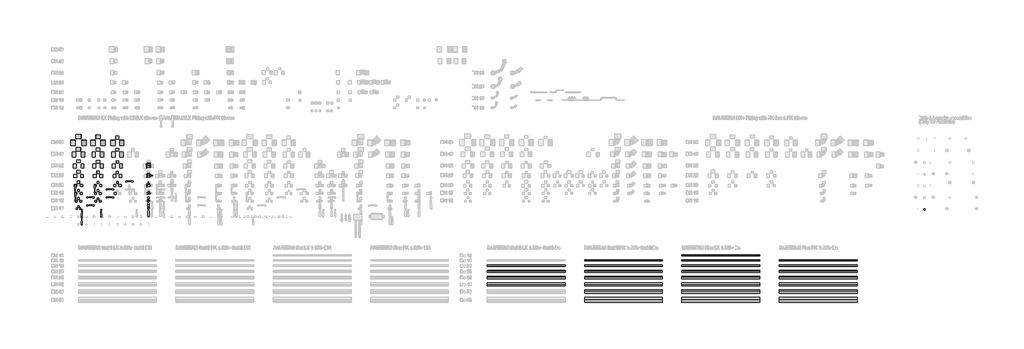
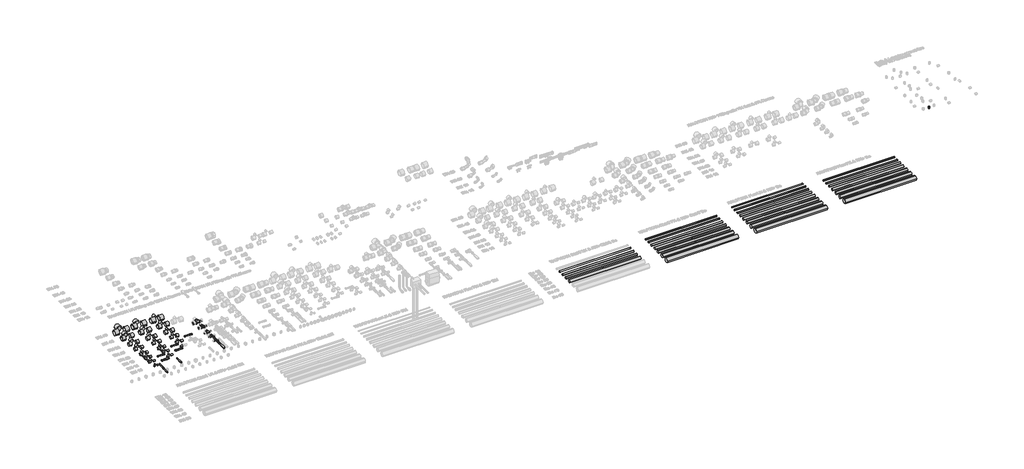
# One storey, part 2 of 18: 67 pipe fittings, 26 pipe segments.
"""IFC4 building model written with IfcOpenShell, lengths in millimetres."""

from ifc_helpers import new_model, si_unit, point, frame, frame_2d, origin, place, context, project, spatial, circle_curve, trimmed, segment, composite_curve, outline, extrude, transform, mapped, element, save
from components import pipe_fitting_9dffc905, pipe_fitting_918ed5ed, pipe_fitting_eedfb6d1, pipe_fitting_2e8cdfe4, dn1_c9c9eba3, pipe_fitting_bdd22d68, sleeve_lx_7_4_533efbed, pipe_fitting_6fe5a3bb, pipe_fitting_396ce9a4, pipe_fitting_37e15ff8, pipe_fitting_5c01712a, pipe_fitting_b25a488c, sleeve_lx_7_4_d3d6d1e0, pipe_fitting_1876d1a3

model = new_model("IFC4")

# Units and contexts
model_context = context("Model", 3, world=origin())
ifc_project = project(units=[si_unit("LENGTHUNIT", "METRE", prefix="MILLI")], contexts=[model_context])

# Site, building, storey
site = spatial("IfcSite", under=ifc_project)
building = spatial("IfcBuilding", under=site)
storey = spatial("IfcBuildingStorey", under=building, Name="REHAU Starting view", Elevation=0.0)

# Pipe fittings
placement = place(None, origin())
pipe_fitting_shape = pipe_fitting_9dffc905(model_context)
element("IfcPipeFitting", 1, ObjectType="RAUTITAN_T-piece_LX : RTI LX T DN", at=placement, inside=storey, context=model_context, shape_type="MappedRepresentation", body=[
    mapped(pipe_fitting_shape, transform((900.0, 100.0, 0.0), x_axis=(1.0, 0.0, 0.0), y_axis=(0.0, 1.0, 0.0), z_axis=(0.0, 0.0, 1.0))),
])
pipe_fitting_2_shape = pipe_fitting_918ed5ed(model_context)
element("IfcPipeFitting", 2, ObjectType="RAUTITAN_T-piece_LX : RTI LX T DN", at=placement, inside=storey, context=model_context, shape_type="MappedRepresentation", body=[
    mapped(pipe_fitting_2_shape, transform((900.0, 300.0, 0.0), x_axis=(1.0, 0.0, 0.0), y_axis=(0.0, 1.0, 0.0), z_axis=(0.0, 0.0, 1.0))),
])
pipe_fitting_3_shape = pipe_fitting_eedfb6d1(model_context)
element("IfcPipeFitting", 3, ObjectType="RAUTITAN_T-piece_LX : RTI LX T DN", at=placement, inside=storey, context=model_context, shape_type="MappedRepresentation", body=[
    mapped(pipe_fitting_3_shape, transform((900.0, 425.0, 0.0), x_axis=(1.0, 0.0, 0.0), y_axis=(0.0, 1.0, 0.0), z_axis=(0.0, 0.0, 1.0))),
])
pipe_fitting_4_shape = pipe_fitting_2e8cdfe4(model_context)
element("IfcPipeFitting", 4, ObjectType="RAUTITAN_T-piece_LX : RTI LX T DN", at=placement, inside=storey, context=model_context, shape_type="MappedRepresentation", body=[
    mapped(pipe_fitting_4_shape, transform((900.0, 200.0, 0.0), x_axis=(1.0, 0.0, 0.0), y_axis=(0.0, 1.0, 0.0), z_axis=(0.0, 0.0, 1.0))),
])
dn1_shape = dn1_c9c9eba3(model_context)
element("IfcPipeFitting", 5, ObjectType="RAUTITAN_Sleeve PX : RTI S PX", at=placement, inside=storey, context=model_context, shape_type="MappedRepresentation", body=[
    mapped(dn1_shape, transform((10865.0, -8.0, 26.3), x_axis=(0.0, 0.0, 1.0), y_axis=(-1.0, 0.0, 0.0), z_axis=(0.0, -1.0, 0.0))),
])
pipe_fitting_5_shape = pipe_fitting_bdd22d68(model_context)
element("IfcPipeFitting", 6, ObjectType="RAUTITAN_T-piece_LX : RTI LX T DN", at=placement, inside=storey, context=model_context, shape_type="MappedRepresentation", body=[
    mapped(pipe_fitting_5_shape, transform((900.0, 550.0, 0.0), x_axis=(1.0, 0.0, 0.0), y_axis=(0.0, 1.0, 0.0), z_axis=(0.0, 0.0, 1.0))),
])
sleeve_lx_7_4_shape = sleeve_lx_7_4_533efbed(model_context)
element("IfcPipeFitting", 7, ObjectType="Sleeve : LX 7,4", at=placement, inside=storey, context=model_context, shape_type="MappedRepresentation", body=[
    mapped(sleeve_lx_7_4_shape, transform((-15.5, 0.0, 0.0), x_axis=(-1.0, 0.0, 0.0), y_axis=(0.0, -1.0, 0.0), z_axis=(0.0, 0.0, 1.0))),
])
element("IfcPipeFitting", 8, ObjectType="Sleeve : LX 7,4", at=placement, inside=storey, context=model_context, shape_type="MappedRepresentation", body=[
    mapped(sleeve_lx_7_4_shape, transform((0.0, 20.0, 0.0), x_axis=(0.0, 1.0, 0.0), y_axis=(-1.0, 0.0, 0.0), z_axis=(0.0, 0.0, 1.0))),
])
element("IfcPipeFitting", 9, ObjectType="Sleeve : LX 7,4", at=placement, inside=storey, context=model_context, shape_type="MappedRepresentation", body=[
    mapped(sleeve_lx_7_4_shape, transform((15.5, 0.0, 0.0), x_axis=(1.0, 0.0, 0.0), y_axis=(0.0, 1.0, 0.0), z_axis=(0.0, 0.0, 1.0))),
])
element("IfcPipeFitting", 10, ObjectType="Sleeve : LX 7,4", at=placement, inside=storey, context=model_context, shape_type="MappedRepresentation", body=[
    mapped(sleeve_lx_7_4_shape, transform((250.0, 122.0, 0.0), x_axis=(0.0, 1.0, 0.0), y_axis=(-1.0, 0.0, 0.0), z_axis=(0.0, 0.0, 1.0))),
])
pipe_fitting_6_shape = pipe_fitting_6fe5a3bb(model_context)
element("IfcPipeFitting", 11, ObjectType="Sleeve : LX 7,4", at=placement, inside=storey, context=model_context, shape_type="MappedRepresentation", body=[
    mapped(pipe_fitting_6_shape, transform((-21.1, 200.0, 0.0), x_axis=(-1.0, 0.0, 0.0), y_axis=(0.0, -1.0, 0.0), z_axis=(0.0, 0.0, 1.0))),
])
element("IfcPipeFitting", 12, ObjectType="Sleeve : LX 7,4", at=placement, inside=storey, context=model_context, shape_type="MappedRepresentation", body=[
    mapped(pipe_fitting_6_shape, transform((0.0, 224.2, 0.0), x_axis=(0.0, 1.0, 0.0), y_axis=(-1.0, 0.0, 0.0), z_axis=(0.0, 0.0, 1.0))),
])
element("IfcPipeFitting", 13, ObjectType="Sleeve : LX 7,4", at=placement, inside=storey, context=model_context, shape_type="MappedRepresentation", body=[
    mapped(pipe_fitting_6_shape, transform((21.1, 200.0, 0.0), x_axis=(1.0, 0.0, 0.0), y_axis=(0.0, 1.0, 0.0), z_axis=(0.0, 0.0, 1.0))),
])
element("IfcPipeFitting", 14, ObjectType="Sleeve : LX 7,4", at=placement, inside=storey, context=model_context, shape_type="MappedRepresentation", body=[
    mapped(pipe_fitting_6_shape, transform((250.0, 327.2, 0.0), x_axis=(0.0, 1.0, 0.0), y_axis=(-1.0, 0.0, 0.0), z_axis=(0.0, 0.0, 1.0))),
])
element("IfcPipeFitting", 15, ObjectType="Sleeve : LX 7,4", at=placement, inside=storey, context=model_context, shape_type="MappedRepresentation", body=[
    mapped(pipe_fitting_6_shape, transform((230.9, 200.0, 0.0), x_axis=(-1.0, 0.0, 0.0), y_axis=(0.0, -1.0, 0.0), z_axis=(0.0, 0.0, 1.0))),
])
element("IfcPipeFitting", 16, ObjectType="Sleeve : LX 7,4", at=placement, inside=storey, context=model_context, shape_type="MappedRepresentation", body=[
    mapped(pipe_fitting_6_shape, transform((269.1, 200.0, 0.0), x_axis=(1.0, 0.0, 0.0), y_axis=(0.0, 1.0, 0.0), z_axis=(0.0, 0.0, 1.0))),
])
element("IfcPipeFitting", 17, ObjectType="Sleeve : LX 7,4", at=placement, inside=storey, context=model_context, shape_type="MappedRepresentation", body=[
    mapped(pipe_fitting_6_shape, transform((500.0, 455.2, 0.0), x_axis=(0.0, 1.0, 0.0), y_axis=(-1.0, 0.0, 0.0), z_axis=(0.0, 0.0, 1.0))),
])
element("IfcPipeFitting", 18, ObjectType="Sleeve : LX 7,4", at=placement, inside=storey, context=model_context, shape_type="MappedRepresentation", body=[
    mapped(pipe_fitting_6_shape, transform((483.9, 200.0, 0.0), x_axis=(-1.0, 0.0, 0.0), y_axis=(0.0, -1.0, 0.0), z_axis=(0.0, 0.0, 1.0))),
])
pipe_fitting_7_shape = pipe_fitting_396ce9a4(model_context)
element("IfcPipeFitting", 19, ObjectType="Sleeve : LX 7,4", at=placement, inside=storey, context=model_context, shape_type="MappedRepresentation", body=[
    mapped(pipe_fitting_7_shape, transform((-25.0, 300.0, 0.0), x_axis=(-1.0, 0.0, 0.0), y_axis=(0.0, -1.0, 0.0), z_axis=(0.0, 0.0, 1.0))),
])
element("IfcPipeFitting", 20, ObjectType="Sleeve : LX 7,4", at=placement, inside=storey, context=model_context, shape_type="MappedRepresentation", body=[
    mapped(pipe_fitting_7_shape, transform((0.0, 327.6, 0.0), x_axis=(0.0, 1.0, 0.0), y_axis=(-1.0, 0.0, 0.0), z_axis=(0.0, 0.0, 1.0))),
])
element("IfcPipeFitting", 21, ObjectType="Sleeve : LX 7,4", at=placement, inside=storey, context=model_context, shape_type="MappedRepresentation", body=[
    mapped(pipe_fitting_7_shape, transform((25.0, 300.0, 0.0), x_axis=(1.0, 0.0, 0.0), y_axis=(0.0, 1.0, 0.0), z_axis=(0.0, 0.0, 1.0))),
])
element("IfcPipeFitting", 22, ObjectType="Sleeve : LX 7,4", at=placement, inside=storey, context=model_context, shape_type="MappedRepresentation", body=[
    mapped(pipe_fitting_7_shape, transform((228.5, 300.0, 0.0), x_axis=(-1.0, 0.0, 0.0), y_axis=(0.0, -1.0, 0.0), z_axis=(0.0, 0.0, 1.0))),
])
element("IfcPipeFitting", 23, ObjectType="Sleeve : LX 7,4", at=placement, inside=storey, context=model_context, shape_type="MappedRepresentation", body=[
    mapped(pipe_fitting_7_shape, transform((271.5, 300.0, 0.0), x_axis=(1.0, 0.0, 0.0), y_axis=(0.0, 1.0, 0.0), z_axis=(0.0, 0.0, 1.0))),
])
element("IfcPipeFitting", 24, ObjectType="Sleeve : LX 7,4", at=placement, inside=storey, context=model_context, shape_type="MappedRepresentation", body=[
    mapped(pipe_fitting_7_shape, transform((250.0, 455.6, 0.0), x_axis=(0.0, 1.0, 0.0), y_axis=(-1.0, 0.0, 0.0), z_axis=(0.0, 0.0, 1.0))),
])
element("IfcPipeFitting", 25, ObjectType="Sleeve : LX 7,4", at=placement, inside=storey, context=model_context, shape_type="MappedRepresentation", body=[
    mapped(pipe_fitting_7_shape, transform((480.5, 300.0, 0.0), x_axis=(-1.0, 0.0, 0.0), y_axis=(0.0, -1.0, 0.0), z_axis=(0.0, 0.0, 1.0))),
])
element("IfcPipeFitting", 26, ObjectType="Sleeve : LX 7,4", at=placement, inside=storey, context=model_context, shape_type="MappedRepresentation", body=[
    mapped(pipe_fitting_7_shape, transform((519.5, 300.0, 0.0), x_axis=(1.0, 0.0, 0.0), y_axis=(0.0, 1.0, 0.0), z_axis=(0.0, 0.0, 1.0))),
])
element("IfcPipeFitting", 27, ObjectType="Sleeve : LX 7,4", at=placement, inside=storey, context=model_context, shape_type="MappedRepresentation", body=[
    mapped(pipe_fitting_7_shape, transform((500.0, 586.2, 0.0), x_axis=(0.0, 1.0, 0.0), y_axis=(-1.0, 0.0, 0.0), z_axis=(0.0, 0.0, 1.0))),
])
pipe_fitting_8_shape = pipe_fitting_37e15ff8(model_context)
element("IfcPipeFitting", 28, ObjectType="Sleeve : LX 7,4", at=placement, inside=storey, context=model_context, shape_type="MappedRepresentation", body=[
    mapped(pipe_fitting_8_shape, transform((-32.3, 550.0, 0.0), x_axis=(-1.0, 0.0, 0.0), y_axis=(0.0, -1.0, 0.0), z_axis=(0.0, 0.0, 1.0))),
])
element("IfcPipeFitting", 29, ObjectType="Sleeve : LX 7,4", at=placement, inside=storey, context=model_context, shape_type="MappedRepresentation", body=[
    mapped(pipe_fitting_8_shape, transform((0.0, 593.0, 0.0), x_axis=(0.0, 1.0, 0.0), y_axis=(-1.0, 0.0, 0.0), z_axis=(0.0, 0.0, 1.0))),
])
element("IfcPipeFitting", 30, ObjectType="Sleeve : LX 7,4", at=placement, inside=storey, context=model_context, shape_type="MappedRepresentation", body=[
    mapped(pipe_fitting_8_shape, transform((32.3, 550.0, 0.0), x_axis=(1.0, 0.0, 0.0), y_axis=(0.0, 1.0, 0.0), z_axis=(0.0, 0.0, 1.0))),
])
element("IfcPipeFitting", 31, ObjectType="Sleeve : LX 7,4", at=placement, inside=storey, context=model_context, shape_type="MappedRepresentation", body=[
    mapped(pipe_fitting_8_shape, transform((220.5, 550.0, 0.0), x_axis=(-1.0, 0.0, 0.0), y_axis=(0.0, -1.0, 0.0), z_axis=(0.0, 0.0, 1.0))),
])
element("IfcPipeFitting", 32, ObjectType="Sleeve : LX 7,4", at=placement, inside=storey, context=model_context, shape_type="MappedRepresentation", body=[
    mapped(pipe_fitting_8_shape, transform((279.5, 550.0, 0.0), x_axis=(1.0, 0.0, 0.0), y_axis=(0.0, 1.0, 0.0), z_axis=(0.0, 0.0, 1.0))),
])
element("IfcPipeFitting", 33, ObjectType="Sleeve : LX 7,4", at=placement, inside=storey, context=model_context, shape_type="MappedRepresentation", body=[
    mapped(pipe_fitting_8_shape, transform((250.0, 746.0, 0.0), x_axis=(0.0, 1.0, 0.0), y_axis=(-1.0, 0.0, 0.0), z_axis=(0.0, 0.0, 1.0))),
])
element("IfcPipeFitting", 34, ObjectType="Sleeve : LX 7,4", at=placement, inside=storey, context=model_context, shape_type="MappedRepresentation", body=[
    mapped(pipe_fitting_8_shape, transform((473.0, 550.0, 0.0), x_axis=(-1.0, 0.0, 0.0), y_axis=(0.0, -1.0, 0.0), z_axis=(0.0, 0.0, 1.0))),
])
element("IfcPipeFitting", 35, ObjectType="Sleeve : LX 7,4", at=placement, inside=storey, context=model_context, shape_type="MappedRepresentation", body=[
    mapped(pipe_fitting_8_shape, transform((527.0, 550.0, 0.0), x_axis=(1.0, 0.0, 0.0), y_axis=(0.0, 1.0, 0.0), z_axis=(0.0, 0.0, 1.0))),
])
pipe_fitting_9_shape = pipe_fitting_5c01712a(model_context)
element("IfcPipeFitting", 36, ObjectType="Sleeve : LX 7,4", at=placement, inside=storey, context=model_context, shape_type="MappedRepresentation", body=[
    mapped(pipe_fitting_9_shape, transform((-36.0, 700.0, 0.0), x_axis=(-1.0, 0.0, 0.0), y_axis=(0.0, -1.0, 0.0), z_axis=(0.0, 0.0, 1.0))),
])
element("IfcPipeFitting", 37, ObjectType="Sleeve : LX 7,4", at=placement, inside=storey, context=model_context, shape_type="MappedRepresentation", body=[
    mapped(pipe_fitting_9_shape, transform((0.0, 746.0, 0.0), x_axis=(0.0, 1.0, 0.0), y_axis=(-1.0, 0.0, 0.0), z_axis=(0.0, 0.0, 1.0))),
])
element("IfcPipeFitting", 38, ObjectType="Sleeve : LX 7,4", at=placement, inside=storey, context=model_context, shape_type="MappedRepresentation", body=[
    mapped(pipe_fitting_9_shape, transform((36.0, 700.0, 0.0), x_axis=(1.0, 0.0, 0.0), y_axis=(0.0, 1.0, 0.0), z_axis=(0.0, 0.0, 1.0))),
])
element("IfcPipeFitting", 39, ObjectType="Sleeve : LX 7,4", at=placement, inside=storey, context=model_context, shape_type="MappedRepresentation", body=[
    mapped(pipe_fitting_9_shape, transform((218.0, 700.0, 0.0), x_axis=(-1.0, 0.0, 0.0), y_axis=(0.0, -1.0, 0.0), z_axis=(0.0, 0.0, 1.0))),
])
element("IfcPipeFitting", 40, ObjectType="Sleeve : LX 7,4", at=placement, inside=storey, context=model_context, shape_type="MappedRepresentation", body=[
    mapped(pipe_fitting_9_shape, transform((282.0, 700.0, 0.0), x_axis=(1.0, 0.0, 0.0), y_axis=(0.0, 1.0, 0.0), z_axis=(0.0, 0.0, 1.0))),
])
element("IfcPipeFitting", 41, ObjectType="Sleeve : LX 7,4", at=placement, inside=storey, context=model_context, shape_type="MappedRepresentation", body=[
    mapped(pipe_fitting_9_shape, transform((250.0, 903.0, 0.0), x_axis=(0.0, 1.0, 0.0), y_axis=(-1.0, 0.0, 0.0), z_axis=(0.0, 0.0, 1.0))),
])
element("IfcPipeFitting", 42, ObjectType="Sleeve : LX 7,4", at=placement, inside=storey, context=model_context, shape_type="MappedRepresentation", body=[
    mapped(pipe_fitting_9_shape, transform((470.5, 700.0, 0.0), x_axis=(-1.0, 0.0, 0.0), y_axis=(0.0, -1.0, 0.0), z_axis=(0.0, 0.0, 1.0))),
])
element("IfcPipeFitting", 43, ObjectType="Sleeve : LX 7,4", at=placement, inside=storey, context=model_context, shape_type="MappedRepresentation", body=[
    mapped(pipe_fitting_9_shape, transform((529.5, 700.0, 0.0), x_axis=(1.0, 0.0, 0.0), y_axis=(0.0, 1.0, 0.0), z_axis=(0.0, 0.0, 1.0))),
])
pipe_fitting_10_shape = pipe_fitting_b25a488c(model_context)
element("IfcPipeFitting", 44, ObjectType="Sleeve : LX 7,4", at=placement, inside=storey, context=model_context, shape_type="MappedRepresentation", body=[
    mapped(pipe_fitting_10_shape, transform((-44.0, 850.0, 0.0), x_axis=(-1.0, 0.0, 0.0), y_axis=(0.0, -1.0, 0.0), z_axis=(0.0, 0.0, 1.0))),
])
element("IfcPipeFitting", 45, ObjectType="Sleeve : LX 7,4", at=placement, inside=storey, context=model_context, shape_type="MappedRepresentation", body=[
    mapped(pipe_fitting_10_shape, transform((0.0, 904.5, 0.0), x_axis=(0.0, 1.0, 0.0), y_axis=(-1.0, 0.0, 0.0), z_axis=(0.0, 0.0, 1.0))),
])
element("IfcPipeFitting", 46, ObjectType="Sleeve : LX 7,4", at=placement, inside=storey, context=model_context, shape_type="MappedRepresentation", body=[
    mapped(pipe_fitting_10_shape, transform((44.0, 850.0, 0.0), x_axis=(1.0, 0.0, 0.0), y_axis=(0.0, 1.0, 0.0), z_axis=(0.0, 0.0, 1.0))),
])
element("IfcPipeFitting", 47, ObjectType="Sleeve : LX 7,4", at=placement, inside=storey, context=model_context, shape_type="MappedRepresentation", body=[
    mapped(pipe_fitting_10_shape, transform((211.7, 850.0, 0.0), x_axis=(-1.0, 0.0, 0.0), y_axis=(0.0, -1.0, 0.0), z_axis=(0.0, 0.0, 1.0))),
])
element("IfcPipeFitting", 48, ObjectType="Sleeve : LX 7,4", at=placement, inside=storey, context=model_context, shape_type="MappedRepresentation", body=[
    mapped(pipe_fitting_10_shape, transform((288.3, 850.0, 0.0), x_axis=(1.0, 0.0, 0.0), y_axis=(0.0, 1.0, 0.0), z_axis=(0.0, 0.0, 1.0))),
])
element("IfcPipeFitting", 49, ObjectType="Sleeve : LX 7,4", at=placement, inside=storey, context=model_context, shape_type="MappedRepresentation", body=[
    mapped(pipe_fitting_10_shape, transform((469.0, 850.0, 0.0), x_axis=(-1.0, 0.0, 0.0), y_axis=(0.0, -1.0, 0.0), z_axis=(0.0, 0.0, 1.0))),
])
element("IfcPipeFitting", 50, ObjectType="Sleeve : LX 7,4", at=placement, inside=storey, context=model_context, shape_type="MappedRepresentation", body=[
    mapped(pipe_fitting_10_shape, transform((531.0, 850.0, 0.0), x_axis=(1.0, 0.0, 0.0), y_axis=(0.0, 1.0, 0.0), z_axis=(0.0, 0.0, 1.0))),
])
sleeve_lx_7_4_2_shape = sleeve_lx_7_4_d3d6d1e0(model_context)
element("IfcPipeFitting", 51, ObjectType="Sleeve : LX 7,4", at=placement, inside=storey, context=model_context, shape_type="MappedRepresentation", body=[
    mapped(sleeve_lx_7_4_2_shape, transform((-18.6, 100.0, 0.0), x_axis=(-1.0, 0.0, 0.0), y_axis=(0.0, -1.0, 0.0), z_axis=(0.0, 0.0, 1.0))),
])
element("IfcPipeFitting", 52, ObjectType="Sleeve : LX 7,4", at=placement, inside=storey, context=model_context, shape_type="MappedRepresentation", body=[
    mapped(sleeve_lx_7_4_2_shape, transform((0.0, 122.3, 0.0), x_axis=(0.0, 1.0, 0.0), y_axis=(-1.0, 0.0, 0.0), z_axis=(0.0, 0.0, 1.0))),
])
element("IfcPipeFitting", 53, ObjectType="Sleeve : LX 7,4", at=placement, inside=storey, context=model_context, shape_type="MappedRepresentation", body=[
    mapped(sleeve_lx_7_4_2_shape, transform((18.6, 100.0, 0.0), x_axis=(1.0, 0.0, 0.0), y_axis=(0.0, 1.0, 0.0), z_axis=(0.0, 0.0, 1.0))),
])
element("IfcPipeFitting", 54, ObjectType="Sleeve : LX 7,4", at=placement, inside=storey, context=model_context, shape_type="MappedRepresentation", body=[
    mapped(sleeve_lx_7_4_2_shape, transform((234.4, 100.0, 0.0), x_axis=(-1.0, 0.0, 0.0), y_axis=(0.0, -1.0, 0.0), z_axis=(0.0, 0.0, 1.0))),
])
element("IfcPipeFitting", 55, ObjectType="Sleeve : LX 7,4", at=placement, inside=storey, context=model_context, shape_type="MappedRepresentation", body=[
    mapped(sleeve_lx_7_4_2_shape, transform((265.6, 100.0, 0.0), x_axis=(1.0, 0.0, 0.0), y_axis=(0.0, 1.0, 0.0), z_axis=(0.0, 0.0, 1.0))),
])
element("IfcPipeFitting", 56, ObjectType="Sleeve : LX 7,4", at=placement, inside=storey, context=model_context, shape_type="MappedRepresentation", body=[
    mapped(sleeve_lx_7_4_2_shape, transform((250.0, 223.7, 0.0), x_axis=(0.0, 1.0, 0.0), y_axis=(-1.0, 0.0, 0.0), z_axis=(0.0, 0.0, 1.0))),
])
element("IfcPipeFitting", 57, ObjectType="Sleeve : LX 7,4", at=placement, inside=storey, context=model_context, shape_type="MappedRepresentation", body=[
    mapped(sleeve_lx_7_4_2_shape, transform((500.0, 326.7, 0.0), x_axis=(0.0, 1.0, 0.0), y_axis=(-1.0, 0.0, 0.0), z_axis=(0.0, 0.0, 1.0))),
])
pipe_fitting_11_shape = pipe_fitting_1876d1a3(model_context)
element("IfcPipeFitting", 58, ObjectType="Sleeve : LX 7,4", at=placement, inside=storey, context=model_context, shape_type="MappedRepresentation", body=[
    mapped(pipe_fitting_11_shape, transform((-25.8, 425.0, 0.0), x_axis=(-1.0, 0.0, 0.0), y_axis=(0.0, -1.0, 0.0), z_axis=(0.0, 0.0, 1.0))),
])
element("IfcPipeFitting", 59, ObjectType="Sleeve : LX 7,4", at=placement, inside=storey, context=model_context, shape_type="MappedRepresentation", body=[
    mapped(pipe_fitting_11_shape, transform((0.0, 458.0, 0.0), x_axis=(0.0, 1.0, 0.0), y_axis=(-1.0, 0.0, 0.0), z_axis=(0.0, 0.0, 1.0))),
])
element("IfcPipeFitting", 60, ObjectType="Sleeve : LX 7,4", at=placement, inside=storey, context=model_context, shape_type="MappedRepresentation", body=[
    mapped(pipe_fitting_11_shape, transform((25.8, 425.0, 0.0), x_axis=(1.0, 0.0, 0.0), y_axis=(0.0, 1.0, 0.0), z_axis=(0.0, 0.0, 1.0))),
])
element("IfcPipeFitting", 61, ObjectType="Sleeve : LX 7,4", at=placement, inside=storey, context=model_context, shape_type="MappedRepresentation", body=[
    mapped(pipe_fitting_11_shape, transform((226.0, 425.0, 0.0), x_axis=(-1.0, 0.0, 0.0), y_axis=(0.0, -1.0, 0.0), z_axis=(0.0, 0.0, 1.0))),
])
element("IfcPipeFitting", 62, ObjectType="Sleeve : LX 7,4", at=placement, inside=storey, context=model_context, shape_type="MappedRepresentation", body=[
    mapped(pipe_fitting_11_shape, transform((274.0, 425.0, 0.0), x_axis=(1.0, 0.0, 0.0), y_axis=(0.0, 1.0, 0.0), z_axis=(0.0, 0.0, 1.0))),
])
element("IfcPipeFitting", 63, ObjectType="Sleeve : LX 7,4", at=placement, inside=storey, context=model_context, shape_type="MappedRepresentation", body=[
    mapped(pipe_fitting_11_shape, transform((250.0, 588.5, 0.0), x_axis=(0.0, 1.0, 0.0), y_axis=(-1.0, 0.0, 0.0), z_axis=(0.0, 0.0, 1.0))),
])
element("IfcPipeFitting", 64, ObjectType="Sleeve : LX 7,4", at=placement, inside=storey, context=model_context, shape_type="MappedRepresentation", body=[
    mapped(pipe_fitting_11_shape, transform((478.5, 425.0, 0.0), x_axis=(-1.0, 0.0, 0.0), y_axis=(0.0, -1.0, 0.0), z_axis=(0.0, 0.0, 1.0))),
])
element("IfcPipeFitting", 65, ObjectType="Sleeve : LX 7,4", at=placement, inside=storey, context=model_context, shape_type="MappedRepresentation", body=[
    mapped(pipe_fitting_11_shape, transform((521.5, 425.0, 0.0), x_axis=(1.0, 0.0, 0.0), y_axis=(0.0, 1.0, 0.0), z_axis=(0.0, 0.0, 1.0))),
])
element("IfcPipeFitting", 66, ObjectType="Sleeve : LX 7,4", at=placement, inside=storey, context=model_context, shape_type="MappedRepresentation", body=[
    mapped(pipe_fitting_11_shape, transform((500.0, 742.0, 0.0), x_axis=(0.0, 1.0, 0.0), y_axis=(-1.0, 0.0, 0.0), z_axis=(0.0, 0.0, 1.0))),
])
element("IfcPipeFitting", 67, ObjectType="Sleeve : LX 7,4", at=placement, inside=storey, context=model_context, shape_type="MappedRepresentation", body=[
    mapped(pipe_fitting_11_shape, transform((500.0, 900.0, 0.0), x_axis=(0.0, 1.0, 0.0), y_axis=(-1.0, 0.0, 0.0), z_axis=(0.0, 0.0, 1.0))),
])

# Pipe segments
element("IfcPipeSegment", 68, ObjectType="RAUTITAN Flex LX & RX+ Do", at=placement, inside=storey, context=model_context, shape_type="SweptSolid", body=[
    extrude(outline(composite_curve([segment(trimmed(circle_curve(frame_2d((-600.0, 0.0)), 6.0), [point((-606.0, 0.0))], [point((-600.0, 6.0))], False, "CARTESIAN"), True, "CONTINUOUS"), segment(trimmed(circle_curve(frame_2d((-600.0, 0.0)), 6.0), [point((-600.0, 6.0))], [point((-594.0, 0.0))], False, "CARTESIAN"), True, "CONTINUOUS"), segment(trimmed(circle_curve(frame_2d((-600.0, 0.0)), 6.0), [point((-594.0, 0.0))], [point((-600.0, -6.0))], False, "CARTESIAN"), True, "CONTINUOUS"), segment(trimmed(circle_curve(frame_2d((-600.0, 0.0)), 6.0), [point((-600.0, -6.0))], [point((-606.0, 0.0))], False, "CARTESIAN"), True, "CONTINUOUS")], self_intersect=False)), frame((7750.0, 0.0, 0.0), z_axis=(1.0, 0.0, 0.0), x_axis=(0.0, 1.0, 0.0)), (0.0, 0.0, 1.0), 1000.0),
])
element("IfcPipeSegment", 69, ObjectType="RAUTITAN Stabil LX & RX+ Stabil Do", at=placement, inside=storey, context=model_context, shape_type="SweptSolid", body=[
    extrude(outline(composite_curve([segment(trimmed(circle_curve(frame_2d((-732.2, 0.0)), 10.0), [point((-742.2, 0.0))], [point((-732.2, 10.0))], False, "CARTESIAN"), True, "CONTINUOUS"), segment(trimmed(circle_curve(frame_2d((-732.2, 0.0)), 10.0), [point((-732.2, 10.0))], [point((-722.2, 0.0))], False, "CARTESIAN"), True, "CONTINUOUS"), segment(trimmed(circle_curve(frame_2d((-732.2, 0.0)), 10.0), [point((-722.2, 0.0))], [point((-732.2, -10.0))], False, "CARTESIAN"), True, "CONTINUOUS"), segment(trimmed(circle_curve(frame_2d((-732.2, 0.0)), 10.0), [point((-732.2, -10.0))], [point((-742.2, 0.0))], False, "CARTESIAN"), True, "CONTINUOUS")], self_intersect=False)), frame((5250.0, 0.0, 0.0), z_axis=(1.0, 0.0, 0.0), x_axis=(0.0, 1.0, 0.0)), (0.0, 0.0, 1.0), 1000.0),
])
element("IfcPipeSegment", 70, ObjectType="RAUTITAN Stabil LX & RX+ Stabil Do", at=placement, inside=storey, context=model_context, shape_type="SweptSolid", body=[
    extrude(outline(composite_curve([segment(trimmed(circle_curve(frame_2d((-804.7, 0.0)), 12.5), [point((-817.2, 0.0))], [point((-804.7, 12.5))], False, "CARTESIAN"), True, "CONTINUOUS"), segment(trimmed(circle_curve(frame_2d((-804.7, 0.0)), 12.5), [point((-804.7, 12.5))], [point((-792.2, 0.0))], False, "CARTESIAN"), True, "CONTINUOUS"), segment(trimmed(circle_curve(frame_2d((-804.7, 0.0)), 12.5), [point((-792.2, 0.0))], [point((-804.7, -12.5))], False, "CARTESIAN"), True, "CONTINUOUS"), segment(trimmed(circle_curve(frame_2d((-804.7, 0.0)), 12.5), [point((-804.7, -12.5))], [point((-817.2, 0.0))], False, "CARTESIAN"), True, "CONTINUOUS")], self_intersect=False)), frame((5250.0, 0.0, 0.0), z_axis=(1.0, 0.0, 0.0), x_axis=(0.0, 1.0, 0.0)), (0.0, 0.0, 1.0), 1000.0),
])
element("IfcPipeSegment", 71, ObjectType="RAUTITAN Stabil LX & RX+ Stabil Do", at=placement, inside=storey, context=model_context, shape_type="SweptSolid", body=[
    extrude(outline(composite_curve([segment(trimmed(circle_curve(frame_2d((-883.2, 0.0)), 16.0), [point((-899.2, 0.0))], [point((-883.2, 16.0))], False, "CARTESIAN"), True, "CONTINUOUS"), segment(trimmed(circle_curve(frame_2d((-883.2, 0.0)), 16.0), [point((-883.2, 16.0))], [point((-867.2, 0.0))], False, "CARTESIAN"), True, "CONTINUOUS"), segment(trimmed(circle_curve(frame_2d((-883.2, 0.0)), 16.0), [point((-867.2, 0.0))], [point((-883.2, -16.0))], False, "CARTESIAN"), True, "CONTINUOUS"), segment(trimmed(circle_curve(frame_2d((-883.2, 0.0)), 16.0), [point((-883.2, -16.0))], [point((-899.2, 0.0))], False, "CARTESIAN"), True, "CONTINUOUS")], self_intersect=False)), frame((5250.0, 0.0, 0.0), z_axis=(1.0, 0.0, 0.0), x_axis=(0.0, 1.0, 0.0)), (0.0, 0.0, 1.0), 1000.0),
])
element("IfcPipeSegment", 72, ObjectType="RAUTITAN Stabil LX & RX+ Stabil Do", at=placement, inside=storey, context=model_context, shape_type="SweptSolid", body=[
    extrude(outline(composite_curve([segment(trimmed(circle_curve(frame_2d((-969.2, 0.0)), 20.0), [point((-989.2, 0.0))], [point((-969.2, 20.0))], False, "CARTESIAN"), True, "CONTINUOUS"), segment(trimmed(circle_curve(frame_2d((-969.2, 0.0)), 20.0), [point((-969.2, 20.0))], [point((-949.2, 0.0))], False, "CARTESIAN"), True, "CONTINUOUS"), segment(trimmed(circle_curve(frame_2d((-969.2, 0.0)), 20.0), [point((-949.2, 0.0))], [point((-969.2, -20.0))], False, "CARTESIAN"), True, "CONTINUOUS"), segment(trimmed(circle_curve(frame_2d((-969.2, 0.0)), 20.0), [point((-969.2, -20.0))], [point((-989.2, 0.0))], False, "CARTESIAN"), True, "CONTINUOUS")], self_intersect=False)), frame((5250.0, 0.0, 0.0), z_axis=(1.0, 0.0, 0.0), x_axis=(0.0, 1.0, 0.0)), (0.0, 0.0, 1.0), 1000.0),
])
element("IfcPipeSegment", 73, ObjectType="RAUTITAN Flex LX & RX+ Do", at=placement, inside=storey, context=model_context, shape_type="SweptSolid", body=[
    extrude(outline(composite_curve([segment(trimmed(circle_curve(frame_2d((-664.1, 0.0)), 8.0), [point((-672.1, 0.0))], [point((-664.1, 8.0))], False, "CARTESIAN"), True, "CONTINUOUS"), segment(trimmed(circle_curve(frame_2d((-664.1, 0.0)), 8.0), [point((-664.1, 8.0))], [point((-656.1, 0.0))], False, "CARTESIAN"), True, "CONTINUOUS"), segment(trimmed(circle_curve(frame_2d((-664.1, 0.0)), 8.0), [point((-656.1, 0.0))], [point((-664.1, -8.0))], False, "CARTESIAN"), True, "CONTINUOUS"), segment(trimmed(circle_curve(frame_2d((-664.1, 0.0)), 8.0), [point((-664.1, -8.0))], [point((-672.1, 0.0))], False, "CARTESIAN"), True, "CONTINUOUS")], self_intersect=False)), frame((7750.0, 0.0, 0.0), z_axis=(1.0, 0.0, 0.0), x_axis=(0.0, 1.0, 0.0)), (0.0, 0.0, 1.0), 1000.0),
])
element("IfcPipeSegment", 74, ObjectType="RAUTITAN Flex LX & RX+ Do", at=placement, inside=storey, context=model_context, shape_type="SweptSolid", body=[
    extrude(outline(composite_curve([segment(trimmed(circle_curve(frame_2d((-732.2, 0.0)), 10.0), [point((-742.2, 0.0))], [point((-732.2, 10.0))], False, "CARTESIAN"), True, "CONTINUOUS"), segment(trimmed(circle_curve(frame_2d((-732.2, 0.0)), 10.0), [point((-732.2, 10.0))], [point((-722.2, 0.0))], False, "CARTESIAN"), True, "CONTINUOUS"), segment(trimmed(circle_curve(frame_2d((-732.2, 0.0)), 10.0), [point((-722.2, 0.0))], [point((-732.2, -10.0))], False, "CARTESIAN"), True, "CONTINUOUS"), segment(trimmed(circle_curve(frame_2d((-732.2, 0.0)), 10.0), [point((-732.2, -10.0))], [point((-742.2, 0.0))], False, "CARTESIAN"), True, "CONTINUOUS")], self_intersect=False)), frame((7750.0, 0.0, 0.0), z_axis=(1.0, 0.0, 0.0), x_axis=(0.0, 1.0, 0.0)), (0.0, 0.0, 1.0), 1000.0),
])
element("IfcPipeSegment", 75, ObjectType="RAUTITAN Flex LX & RX+ Do", at=placement, inside=storey, context=model_context, shape_type="SweptSolid", body=[
    extrude(outline(composite_curve([segment(trimmed(circle_curve(frame_2d((-804.7, 0.0)), 12.5), [point((-817.2, 0.0))], [point((-804.7, 12.5))], False, "CARTESIAN"), True, "CONTINUOUS"), segment(trimmed(circle_curve(frame_2d((-804.7, 0.0)), 12.5), [point((-804.7, 12.5))], [point((-792.2, 0.0))], False, "CARTESIAN"), True, "CONTINUOUS"), segment(trimmed(circle_curve(frame_2d((-804.7, 0.0)), 12.5), [point((-792.2, 0.0))], [point((-804.7, -12.5))], False, "CARTESIAN"), True, "CONTINUOUS"), segment(trimmed(circle_curve(frame_2d((-804.7, 0.0)), 12.5), [point((-804.7, -12.5))], [point((-817.2, 0.0))], False, "CARTESIAN"), True, "CONTINUOUS")], self_intersect=False)), frame((7750.0, 0.0, 0.0), z_axis=(1.0, 0.0, 0.0), x_axis=(0.0, 1.0, 0.0)), (0.0, 0.0, 1.0), 1000.0),
])
element("IfcPipeSegment", 76, ObjectType="RAUTITAN Flex LX & RX+ Do", at=placement, inside=storey, context=model_context, shape_type="SweptSolid", body=[
    extrude(outline(composite_curve([segment(trimmed(circle_curve(frame_2d((-883.2, 0.0)), 16.0), [point((-899.2, 0.0))], [point((-883.2, 16.0))], False, "CARTESIAN"), True, "CONTINUOUS"), segment(trimmed(circle_curve(frame_2d((-883.2, 0.0)), 16.0), [point((-883.2, 16.0))], [point((-867.2, 0.0))], False, "CARTESIAN"), True, "CONTINUOUS"), segment(trimmed(circle_curve(frame_2d((-883.2, 0.0)), 16.0), [point((-867.2, 0.0))], [point((-883.2, -16.0))], False, "CARTESIAN"), True, "CONTINUOUS"), segment(trimmed(circle_curve(frame_2d((-883.2, 0.0)), 16.0), [point((-883.2, -16.0))], [point((-899.2, 0.0))], False, "CARTESIAN"), True, "CONTINUOUS")], self_intersect=False)), frame((7750.0, 0.0, 0.0), z_axis=(1.0, 0.0, 0.0), x_axis=(0.0, 1.0, 0.0)), (0.0, 0.0, 1.0), 1000.0),
])
element("IfcPipeSegment", 77, ObjectType="RAUTITAN Flex LX & RX+ Do", at=placement, inside=storey, context=model_context, shape_type="SweptSolid", body=[
    extrude(outline(composite_curve([segment(trimmed(circle_curve(frame_2d((-969.2, 0.0)), 20.0), [point((-989.2, 0.0))], [point((-969.2, 20.0))], False, "CARTESIAN"), True, "CONTINUOUS"), segment(trimmed(circle_curve(frame_2d((-969.2, 0.0)), 20.0), [point((-969.2, 20.0))], [point((-949.2, 0.0))], False, "CARTESIAN"), True, "CONTINUOUS"), segment(trimmed(circle_curve(frame_2d((-969.2, 0.0)), 20.0), [point((-949.2, 0.0))], [point((-969.2, -20.0))], False, "CARTESIAN"), True, "CONTINUOUS"), segment(trimmed(circle_curve(frame_2d((-969.2, 0.0)), 20.0), [point((-969.2, -20.0))], [point((-989.2, 0.0))], False, "CARTESIAN"), True, "CONTINUOUS")], self_intersect=False)), frame((7750.0, 0.0, 0.0), z_axis=(1.0, 0.0, 0.0), x_axis=(0.0, 1.0, 0.0)), (0.0, 0.0, 1.0), 1000.0),
])
element("IfcPipeSegment", 78, ObjectType="RAUTITAN Flex LX & RX+ Do", at=placement, inside=storey, context=model_context, shape_type="SweptSolid", body=[
    extrude(outline(composite_curve([segment(trimmed(circle_curve(frame_2d((-1064.2, 0.0)), 25.0), [point((-1089.2, 0.0))], [point((-1064.2, 25.0))], False, "CARTESIAN"), True, "CONTINUOUS"), segment(trimmed(circle_curve(frame_2d((-1064.2, 0.0)), 25.0), [point((-1064.2, 25.0))], [point((-1039.2, 0.0))], False, "CARTESIAN"), True, "CONTINUOUS"), segment(trimmed(circle_curve(frame_2d((-1064.2, 0.0)), 25.0), [point((-1039.2, 0.0))], [point((-1064.2, -25.0))], False, "CARTESIAN"), True, "CONTINUOUS"), segment(trimmed(circle_curve(frame_2d((-1064.2, 0.0)), 25.0), [point((-1064.2, -25.0))], [point((-1089.2, 0.0))], False, "CARTESIAN"), True, "CONTINUOUS")], self_intersect=False)), frame((7750.0, 0.0, 0.0), z_axis=(1.0, 0.0, 0.0), x_axis=(0.0, 1.0, 0.0)), (0.0, 0.0, 1.0), 1000.0),
])
element("IfcPipeSegment", 79, ObjectType="RAUTITAN Stabil PX & RX+ Stabil Do", at=placement, inside=storey, context=model_context, shape_type="SweptSolid", body=[
    extrude(outline(composite_curve([segment(trimmed(circle_curve(frame_2d((-664.1, 0.0)), 8.1), [point((-672.2, 0.0))], [point((-664.1, 8.1))], False, "CARTESIAN"), True, "CONTINUOUS"), segment(trimmed(circle_curve(frame_2d((-664.1, 0.0)), 8.1), [point((-664.1, 8.1))], [point((-656.0, 0.0))], False, "CARTESIAN"), True, "CONTINUOUS"), segment(trimmed(circle_curve(frame_2d((-664.1, 0.0)), 8.1), [point((-656.0, 0.0))], [point((-664.1, -8.1))], False, "CARTESIAN"), True, "CONTINUOUS"), segment(trimmed(circle_curve(frame_2d((-664.1, 0.0)), 8.1), [point((-664.1, -8.1))], [point((-672.2, 0.0))], False, "CARTESIAN"), True, "CONTINUOUS")], self_intersect=False)), frame((6500.0, 0.0, 0.0), z_axis=(1.0, 0.0, 0.0), x_axis=(0.0, 1.0, 0.0)), (0.0, 0.0, 1.0), 1000.0),
])
element("IfcPipeSegment", 80, ObjectType="RAUTITAN Stabil PX & RX+ Stabil Do", at=placement, inside=storey, context=model_context, shape_type="SweptSolid", body=[
    extrude(outline(composite_curve([segment(trimmed(circle_curve(frame_2d((-732.2, 0.0)), 10.0), [point((-742.2, 0.0))], [point((-732.2, 10.0))], False, "CARTESIAN"), True, "CONTINUOUS"), segment(trimmed(circle_curve(frame_2d((-732.2, 0.0)), 10.0), [point((-732.2, 10.0))], [point((-722.2, 0.0))], False, "CARTESIAN"), True, "CONTINUOUS"), segment(trimmed(circle_curve(frame_2d((-732.2, 0.0)), 10.0), [point((-722.2, 0.0))], [point((-732.2, -10.0))], False, "CARTESIAN"), True, "CONTINUOUS"), segment(trimmed(circle_curve(frame_2d((-732.2, 0.0)), 10.0), [point((-732.2, -10.0))], [point((-742.2, 0.0))], False, "CARTESIAN"), True, "CONTINUOUS")], self_intersect=False)), frame((6500.0, 0.0, 0.0), z_axis=(1.0, 0.0, 0.0), x_axis=(0.0, 1.0, 0.0)), (0.0, 0.0, 1.0), 1000.0),
])
element("IfcPipeSegment", 81, ObjectType="RAUTITAN Stabil PX & RX+ Stabil Do", at=placement, inside=storey, context=model_context, shape_type="SweptSolid", body=[
    extrude(outline(composite_curve([segment(trimmed(circle_curve(frame_2d((-804.7, 0.0)), 12.5), [point((-817.2, 0.0))], [point((-804.7, 12.5))], False, "CARTESIAN"), True, "CONTINUOUS"), segment(trimmed(circle_curve(frame_2d((-804.7, 0.0)), 12.5), [point((-804.7, 12.5))], [point((-792.2, 0.0))], False, "CARTESIAN"), True, "CONTINUOUS"), segment(trimmed(circle_curve(frame_2d((-804.7, 0.0)), 12.5), [point((-792.2, 0.0))], [point((-804.7, -12.5))], False, "CARTESIAN"), True, "CONTINUOUS"), segment(trimmed(circle_curve(frame_2d((-804.7, 0.0)), 12.5), [point((-804.7, -12.5))], [point((-817.2, 0.0))], False, "CARTESIAN"), True, "CONTINUOUS")], self_intersect=False)), frame((6500.0, 0.0, 0.0), z_axis=(1.0, 0.0, 0.0), x_axis=(0.0, 1.0, 0.0)), (0.0, 0.0, 1.0), 1000.0),
])
element("IfcPipeSegment", 82, ObjectType="RAUTITAN Stabil PX & RX+ Stabil Do", at=placement, inside=storey, context=model_context, shape_type="SweptSolid", body=[
    extrude(outline(composite_curve([segment(trimmed(circle_curve(frame_2d((-883.2, 0.0)), 16.0), [point((-899.2, 0.0))], [point((-883.2, 16.0))], False, "CARTESIAN"), True, "CONTINUOUS"), segment(trimmed(circle_curve(frame_2d((-883.2, 0.0)), 16.0), [point((-883.2, 16.0))], [point((-867.2, 0.0))], False, "CARTESIAN"), True, "CONTINUOUS"), segment(trimmed(circle_curve(frame_2d((-883.2, 0.0)), 16.0), [point((-867.2, 0.0))], [point((-883.2, -16.0))], False, "CARTESIAN"), True, "CONTINUOUS"), segment(trimmed(circle_curve(frame_2d((-883.2, 0.0)), 16.0), [point((-883.2, -16.0))], [point((-899.2, 0.0))], False, "CARTESIAN"), True, "CONTINUOUS")], self_intersect=False)), frame((6500.0, 0.0, 0.0), z_axis=(1.0, 0.0, 0.0), x_axis=(0.0, 1.0, 0.0)), (0.0, 0.0, 1.0), 1000.0),
])
element("IfcPipeSegment", 83, ObjectType="RAUTITAN Stabil PX & RX+ Stabil Do", at=placement, inside=storey, context=model_context, shape_type="SweptSolid", body=[
    extrude(outline(composite_curve([segment(trimmed(circle_curve(frame_2d((-969.2, 0.0)), 20.0), [point((-989.2, 0.0))], [point((-969.2, 20.0))], False, "CARTESIAN"), True, "CONTINUOUS"), segment(trimmed(circle_curve(frame_2d((-969.2, 0.0)), 20.0), [point((-969.2, 20.0))], [point((-949.2, 0.0))], False, "CARTESIAN"), True, "CONTINUOUS"), segment(trimmed(circle_curve(frame_2d((-969.2, 0.0)), 20.0), [point((-949.2, 0.0))], [point((-969.2, -20.0))], False, "CARTESIAN"), True, "CONTINUOUS"), segment(trimmed(circle_curve(frame_2d((-969.2, 0.0)), 20.0), [point((-969.2, -20.0))], [point((-989.2, 0.0))], False, "CARTESIAN"), True, "CONTINUOUS")], self_intersect=False)), frame((6500.0, 0.0, 0.0), z_axis=(1.0, 0.0, 0.0), x_axis=(0.0, 1.0, 0.0)), (0.0, 0.0, 1.0), 1000.0),
])
element("IfcPipeSegment", 84, ObjectType="RAUTITAN Stabil PX & RX+ Stabil Do", at=placement, inside=storey, context=model_context, shape_type="SweptSolid", body=[
    extrude(outline(composite_curve([segment(trimmed(circle_curve(frame_2d((-1064.2, 0.0)), 25.0), [point((-1089.2, 0.0))], [point((-1064.2, 25.0))], False, "CARTESIAN"), True, "CONTINUOUS"), segment(trimmed(circle_curve(frame_2d((-1064.2, 0.0)), 25.0), [point((-1064.2, 25.0))], [point((-1039.2, 0.0))], False, "CARTESIAN"), True, "CONTINUOUS"), segment(trimmed(circle_curve(frame_2d((-1064.2, 0.0)), 25.0), [point((-1039.2, 0.0))], [point((-1064.2, -25.0))], False, "CARTESIAN"), True, "CONTINUOUS"), segment(trimmed(circle_curve(frame_2d((-1064.2, 0.0)), 25.0), [point((-1064.2, -25.0))], [point((-1089.2, 0.0))], False, "CARTESIAN"), True, "CONTINUOUS")], self_intersect=False)), frame((6500.0, 0.0, 0.0), z_axis=(1.0, 0.0, 0.0), x_axis=(0.0, 1.0, 0.0)), (0.0, 0.0, 1.0), 1000.0),
])
element("IfcPipeSegment", 85, ObjectType="RAUTITAN Stabil PX & RX+ Stabil Do", at=placement, inside=storey, context=model_context, shape_type="SweptSolid", body=[
    extrude(outline(composite_curve([segment(trimmed(circle_curve(frame_2d((-1170.7, 0.0)), 31.5), [point((-1202.2, 0.0))], [point((-1170.7, 31.5))], False, "CARTESIAN"), True, "CONTINUOUS"), segment(trimmed(circle_curve(frame_2d((-1170.7, 0.0)), 31.5), [point((-1170.7, 31.5))], [point((-1139.2, 0.0))], False, "CARTESIAN"), True, "CONTINUOUS"), segment(trimmed(circle_curve(frame_2d((-1170.7, 0.0)), 31.5), [point((-1139.2, 0.0))], [point((-1170.7, -31.5))], False, "CARTESIAN"), True, "CONTINUOUS"), segment(trimmed(circle_curve(frame_2d((-1170.7, 0.0)), 31.5), [point((-1170.7, -31.5))], [point((-1202.2, 0.0))], False, "CARTESIAN"), True, "CONTINUOUS")], self_intersect=False)), frame((6500.0, 0.0, 0.0), z_axis=(1.0, 0.0, 0.0), x_axis=(0.0, 1.0, 0.0)), (0.0, 0.0, 1.0), 1000.0),
])
element("IfcPipeSegment", 86, ObjectType="RAUTITAN Flex LX & RX+ Do", at=placement, inside=storey, context=model_context, shape_type="SweptSolid", body=[
    extrude(outline(composite_curve([segment(trimmed(circle_curve(frame_2d((-1170.7, 0.0)), 31.5), [point((-1202.2, 0.0))], [point((-1170.7, 31.5))], False, "CARTESIAN"), True, "CONTINUOUS"), segment(trimmed(circle_curve(frame_2d((-1170.7, 0.0)), 31.5), [point((-1170.7, 31.5))], [point((-1139.2, 0.0))], False, "CARTESIAN"), True, "CONTINUOUS"), segment(trimmed(circle_curve(frame_2d((-1170.7, 0.0)), 31.5), [point((-1139.2, 0.0))], [point((-1170.7, -31.5))], False, "CARTESIAN"), True, "CONTINUOUS"), segment(trimmed(circle_curve(frame_2d((-1170.7, 0.0)), 31.5), [point((-1170.7, -31.5))], [point((-1202.2, 0.0))], False, "CARTESIAN"), True, "CONTINUOUS")], self_intersect=False)), frame((7750.0, 0.0, 0.0), z_axis=(1.0, 0.0, 0.0), x_axis=(0.0, 1.0, 0.0)), (0.0, 0.0, 1.0), 1000.0),
])
element("IfcPipeSegment", 87, ObjectType="RAUTITAN Flex PX & RX+ Do", at=placement, inside=storey, context=model_context, shape_type="SweptSolid", body=[
    extrude(outline(composite_curve([segment(trimmed(circle_curve(frame_2d((-664.1, 0.0)), 8.0), [point((-672.1, 0.0))], [point((-664.1, 8.0))], False, "CARTESIAN"), True, "CONTINUOUS"), segment(trimmed(circle_curve(frame_2d((-664.1, 0.0)), 8.0), [point((-664.1, 8.0))], [point((-656.1, 0.0))], False, "CARTESIAN"), True, "CONTINUOUS"), segment(trimmed(circle_curve(frame_2d((-664.1, 0.0)), 8.0), [point((-656.1, 0.0))], [point((-664.1, -8.0))], False, "CARTESIAN"), True, "CONTINUOUS"), segment(trimmed(circle_curve(frame_2d((-664.1, 0.0)), 8.0), [point((-664.1, -8.0))], [point((-672.1, 0.0))], False, "CARTESIAN"), True, "CONTINUOUS")], self_intersect=False)), frame((9000.0, 0.0, 0.0), z_axis=(1.0, 0.0, 0.0), x_axis=(0.0, 1.0, 0.0)), (0.0, 0.0, 1.0), 1000.0),
])
element("IfcPipeSegment", 88, ObjectType="RAUTITAN Flex PX & RX+ Do", at=placement, inside=storey, context=model_context, shape_type="SweptSolid", body=[
    extrude(outline(composite_curve([segment(trimmed(circle_curve(frame_2d((-732.2, 0.0)), 10.0), [point((-742.2, 0.0))], [point((-732.2, 10.0))], False, "CARTESIAN"), True, "CONTINUOUS"), segment(trimmed(circle_curve(frame_2d((-732.2, 0.0)), 10.0), [point((-732.2, 10.0))], [point((-722.2, 0.0))], False, "CARTESIAN"), True, "CONTINUOUS"), segment(trimmed(circle_curve(frame_2d((-732.2, 0.0)), 10.0), [point((-722.2, 0.0))], [point((-732.2, -10.0))], False, "CARTESIAN"), True, "CONTINUOUS"), segment(trimmed(circle_curve(frame_2d((-732.2, 0.0)), 10.0), [point((-732.2, -10.0))], [point((-742.2, 0.0))], False, "CARTESIAN"), True, "CONTINUOUS")], self_intersect=False)), frame((9000.0, 0.0, 0.0), z_axis=(1.0, 0.0, 0.0), x_axis=(0.0, 1.0, 0.0)), (0.0, 0.0, 1.0), 1000.0),
])
element("IfcPipeSegment", 89, ObjectType="RAUTITAN Flex PX & RX+ Do", at=placement, inside=storey, context=model_context, shape_type="SweptSolid", body=[
    extrude(outline(composite_curve([segment(trimmed(circle_curve(frame_2d((-804.7, 0.0)), 12.5), [point((-817.2, 0.0))], [point((-804.7, 12.5))], False, "CARTESIAN"), True, "CONTINUOUS"), segment(trimmed(circle_curve(frame_2d((-804.7, 0.0)), 12.5), [point((-804.7, 12.5))], [point((-792.2, 0.0))], False, "CARTESIAN"), True, "CONTINUOUS"), segment(trimmed(circle_curve(frame_2d((-804.7, 0.0)), 12.5), [point((-792.2, 0.0))], [point((-804.7, -12.5))], False, "CARTESIAN"), True, "CONTINUOUS"), segment(trimmed(circle_curve(frame_2d((-804.7, 0.0)), 12.5), [point((-804.7, -12.5))], [point((-817.2, 0.0))], False, "CARTESIAN"), True, "CONTINUOUS")], self_intersect=False)), frame((9000.0, 0.0, 0.0), z_axis=(1.0, 0.0, 0.0), x_axis=(0.0, 1.0, 0.0)), (0.0, 0.0, 1.0), 1000.0),
])
element("IfcPipeSegment", 90, ObjectType="RAUTITAN Flex PX & RX+ Do", at=placement, inside=storey, context=model_context, shape_type="SweptSolid", body=[
    extrude(outline(composite_curve([segment(trimmed(circle_curve(frame_2d((-883.2, 0.0)), 16.0), [point((-899.2, 0.0))], [point((-883.2, 16.0))], False, "CARTESIAN"), True, "CONTINUOUS"), segment(trimmed(circle_curve(frame_2d((-883.2, 0.0)), 16.0), [point((-883.2, 16.0))], [point((-867.2, 0.0))], False, "CARTESIAN"), True, "CONTINUOUS"), segment(trimmed(circle_curve(frame_2d((-883.2, 0.0)), 16.0), [point((-867.2, 0.0))], [point((-883.2, -16.0))], False, "CARTESIAN"), True, "CONTINUOUS"), segment(trimmed(circle_curve(frame_2d((-883.2, 0.0)), 16.0), [point((-883.2, -16.0))], [point((-899.2, 0.0))], False, "CARTESIAN"), True, "CONTINUOUS")], self_intersect=False)), frame((9000.0, 0.0, 0.0), z_axis=(1.0, 0.0, 0.0), x_axis=(0.0, 1.0, 0.0)), (0.0, 0.0, 1.0), 1000.0),
])
element("IfcPipeSegment", 91, ObjectType="RAUTITAN Flex PX & RX+ Do", at=placement, inside=storey, context=model_context, shape_type="SweptSolid", body=[
    extrude(outline(composite_curve([segment(trimmed(circle_curve(frame_2d((-969.2, 0.0)), 20.0), [point((-989.2, 0.0))], [point((-969.2, 20.0))], False, "CARTESIAN"), True, "CONTINUOUS"), segment(trimmed(circle_curve(frame_2d((-969.2, 0.0)), 20.0), [point((-969.2, 20.0))], [point((-949.2, 0.0))], False, "CARTESIAN"), True, "CONTINUOUS"), segment(trimmed(circle_curve(frame_2d((-969.2, 0.0)), 20.0), [point((-949.2, 0.0))], [point((-969.2, -20.0))], False, "CARTESIAN"), True, "CONTINUOUS"), segment(trimmed(circle_curve(frame_2d((-969.2, 0.0)), 20.0), [point((-969.2, -20.0))], [point((-989.2, 0.0))], False, "CARTESIAN"), True, "CONTINUOUS")], self_intersect=False)), frame((9000.0, 0.0, 0.0), z_axis=(1.0, 0.0, 0.0), x_axis=(0.0, 1.0, 0.0)), (0.0, 0.0, 1.0), 1000.0),
])
element("IfcPipeSegment", 92, ObjectType="RAUTITAN Flex PX & RX+ Do", at=placement, inside=storey, context=model_context, shape_type="SweptSolid", body=[
    extrude(outline(composite_curve([segment(trimmed(circle_curve(frame_2d((-1064.2, 0.0)), 25.0), [point((-1089.2, 0.0))], [point((-1064.2, 25.0))], False, "CARTESIAN"), True, "CONTINUOUS"), segment(trimmed(circle_curve(frame_2d((-1064.2, 0.0)), 25.0), [point((-1064.2, 25.0))], [point((-1039.2, 0.0))], False, "CARTESIAN"), True, "CONTINUOUS"), segment(trimmed(circle_curve(frame_2d((-1064.2, 0.0)), 25.0), [point((-1039.2, 0.0))], [point((-1064.2, -25.0))], False, "CARTESIAN"), True, "CONTINUOUS"), segment(trimmed(circle_curve(frame_2d((-1064.2, 0.0)), 25.0), [point((-1064.2, -25.0))], [point((-1089.2, 0.0))], False, "CARTESIAN"), True, "CONTINUOUS")], self_intersect=False)), frame((9000.0, 0.0, 0.0), z_axis=(1.0, 0.0, 0.0), x_axis=(0.0, 1.0, 0.0)), (0.0, 0.0, 1.0), 1000.0),
])
element("IfcPipeSegment", 93, ObjectType="RAUTITAN Flex PX & RX+ Do", at=placement, inside=storey, context=model_context, shape_type="SweptSolid", body=[
    extrude(outline(composite_curve([segment(trimmed(circle_curve(frame_2d((-1170.7, 0.0)), 31.5), [point((-1202.2, 0.0))], [point((-1170.7, 31.5))], False, "CARTESIAN"), True, "CONTINUOUS"), segment(trimmed(circle_curve(frame_2d((-1170.7, 0.0)), 31.5), [point((-1170.7, 31.5))], [point((-1139.2, 0.0))], False, "CARTESIAN"), True, "CONTINUOUS"), segment(trimmed(circle_curve(frame_2d((-1170.7, 0.0)), 31.5), [point((-1139.2, 0.0))], [point((-1170.7, -31.5))], False, "CARTESIAN"), True, "CONTINUOUS"), segment(trimmed(circle_curve(frame_2d((-1170.7, 0.0)), 31.5), [point((-1170.7, -31.5))], [point((-1202.2, 0.0))], False, "CARTESIAN"), True, "CONTINUOUS")], self_intersect=False)), frame((9000.0, 0.0, 0.0), z_axis=(1.0, 0.0, 0.0), x_axis=(0.0, 1.0, 0.0)), (0.0, 0.0, 1.0), 1000.0),
])

save(model, "model.ifc")
